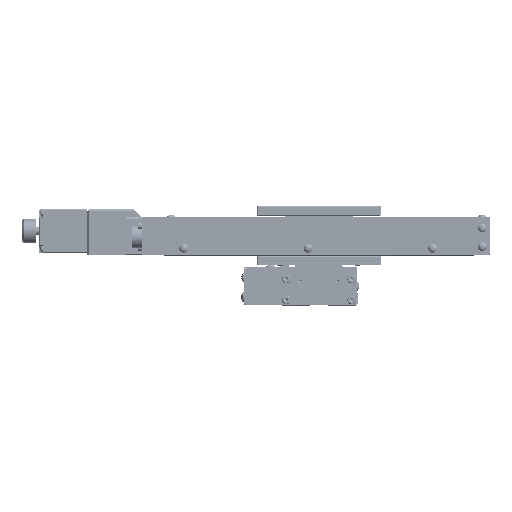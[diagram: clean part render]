
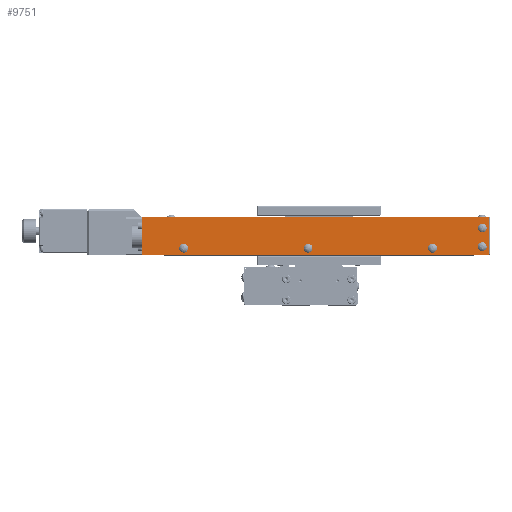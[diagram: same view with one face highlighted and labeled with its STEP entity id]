
A CAD part, front view. The second image highlights one B-rep face of the part: STEP entity #9751.
In plain terms, the highlighted planar face has unit normal (0, -1, 0).
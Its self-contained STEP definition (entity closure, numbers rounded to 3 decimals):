
#9751=ADVANCED_FACE('',(#58721,#58722,#58723,#58724,#58725,#58726),#58720,.T.);
#58720=PLANE('',#99414);
#58721=FACE_OUTER_BOUND('',#99415,.T.);
#58722=FACE_BOUND('',#99416,.T.);
#58723=FACE_BOUND('',#99417,.T.);
#58724=FACE_BOUND('',#99418,.T.);
#58725=FACE_BOUND('',#99419,.T.);
#58726=FACE_BOUND('',#99420,.T.);
#99411=CARTESIAN_POINT('',(-224.,-48.5,-1.95));
#99412=DIRECTION('',(0.,-1.,0.));
#99413=DIRECTION('',(1.,0.,0.));
#99414=AXIS2_PLACEMENT_3D('',#99411,#99412,#99413);
#99415=EDGE_LOOP('',(#125320,#125321,#125322,#125323,#125324,#125325));
#99416=EDGE_LOOP('',(#125326,#125327));
#99417=EDGE_LOOP('',(#125328,#125329));
#99418=EDGE_LOOP('',(#125330,#125331));
#99419=EDGE_LOOP('',(#125332,#125333));
#99420=EDGE_LOOP('',(#125334,#125335));
#125320=ORIENTED_EDGE('',*,*,#139735,.F.);
#125321=ORIENTED_EDGE('',*,*,#139733,.T.);
#125322=ORIENTED_EDGE('',*,*,#139736,.F.);
#125323=ORIENTED_EDGE('',*,*,#139737,.T.);
#125324=ORIENTED_EDGE('',*,*,#139738,.T.);
#125325=ORIENTED_EDGE('',*,*,#139739,.T.);
#125326=ORIENTED_EDGE('',*,*,#139740,.T.);
#125327=ORIENTED_EDGE('',*,*,#139741,.T.);
#125328=ORIENTED_EDGE('',*,*,#139742,.T.);
#125329=ORIENTED_EDGE('',*,*,#139743,.T.);
#125330=ORIENTED_EDGE('',*,*,#139744,.T.);
#125331=ORIENTED_EDGE('',*,*,#139745,.T.);
#125332=ORIENTED_EDGE('',*,*,#139746,.T.);
#125333=ORIENTED_EDGE('',*,*,#139747,.T.);
#125334=ORIENTED_EDGE('',*,*,#139748,.T.);
#125335=ORIENTED_EDGE('',*,*,#139749,.T.);
#139733=EDGE_CURVE('',#213259,#213252,#213260,.T.);
#139735=EDGE_CURVE('',#213259,#213272,#213273,.T.);
#139736=EDGE_CURVE('',#213279,#213252,#213280,.T.);
#139737=EDGE_CURVE('',#213279,#213286,#213287,.T.);
#139738=EDGE_CURVE('',#213286,#213293,#213294,.T.);
#139739=EDGE_CURVE('',#213293,#213272,#213300,.T.);
#139740=EDGE_CURVE('',#213306,#213307,#213308,.T.);
#139741=EDGE_CURVE('',#213307,#213306,#213314,.T.);
#139742=EDGE_CURVE('',#213320,#213321,#213322,.T.);
#139743=EDGE_CURVE('',#213321,#213320,#213328,.T.);
#139744=EDGE_CURVE('',#213334,#213335,#213336,.T.);
#139745=EDGE_CURVE('',#213335,#213334,#213342,.T.);
#139746=EDGE_CURVE('',#213348,#213349,#213350,.T.);
#139747=EDGE_CURVE('',#213349,#213348,#213356,.T.);
#139748=EDGE_CURVE('',#213362,#213363,#213364,.T.);
#139749=EDGE_CURVE('',#213363,#213362,#213370,.T.);
#213252=VERTEX_POINT('',#270644);
#213259=VERTEX_POINT('',#270648);
#213260=CIRCLE('',#270652,1.);
#213272=VERTEX_POINT('',#270656);
#213273=LINE('',#270657,#270658);
#213279=VERTEX_POINT('',#270660);
#213280=LINE('',#270661,#270662);
#213286=VERTEX_POINT('',#270664);
#213287=CIRCLE('',#270668,1.);
#213293=VERTEX_POINT('',#270669);
#213294=LINE('',#270670,#270671);
#213300=LINE('',#270673,#270674);
#213306=VERTEX_POINT('',#270676);
#213307=VERTEX_POINT('',#270677);
#213308=CIRCLE('',#270681,1.5);
#213314=CIRCLE('',#270685,1.5);
#213320=VERTEX_POINT('',#270686);
#213321=VERTEX_POINT('',#270687);
#213322=CIRCLE('',#270691,1.5);
#213328=CIRCLE('',#270695,1.5);
#213334=VERTEX_POINT('',#270696);
#213335=VERTEX_POINT('',#270697);
#213336=CIRCLE('',#270701,1.5);
#213342=CIRCLE('',#270705,1.5);
#213348=VERTEX_POINT('',#270706);
#213349=VERTEX_POINT('',#270707);
#213350=CIRCLE('',#270711,1.5);
#213356=CIRCLE('',#270715,1.5);
#213362=VERTEX_POINT('',#270716);
#213363=VERTEX_POINT('',#270717);
#213364=CIRCLE('',#270721,1.5);
#213370=CIRCLE('',#270725,1.5);
#270644=CARTESIAN_POINT('',(-213.,-48.5,0.5));
#270648=CARTESIAN_POINT('',(-214.,-48.5,1.5));
#270649=CARTESIAN_POINT('',(-213.,-48.5,1.5));
#270650=DIRECTION('',(0.,-1.,0.));
#270651=DIRECTION('',(1.,0.,0.));
#270652=AXIS2_PLACEMENT_3D('',#270649,#270650,#270651);
#270656=CARTESIAN_POINT('',(-214.,-48.5,25.));
#270657=CARTESIAN_POINT('',(-214.,-48.5,1.5));
#270658=VECTOR('',#270659,23.5);
#270659=DIRECTION('',(0.,0.,1.));
#270660=CARTESIAN_POINT('',(8.5,-48.5,0.5));
#270661=CARTESIAN_POINT('',(8.5,-48.5,0.5));
#270662=VECTOR('',#270663,221.5);
#270663=DIRECTION('',(-1.,0.,0.));
#270664=CARTESIAN_POINT('',(9.5,-48.5,1.5));
#270665=CARTESIAN_POINT('',(8.5,-48.5,1.5));
#270666=DIRECTION('',(0.,-1.,0.));
#270667=DIRECTION('',(0.,0.,1.));
#270668=AXIS2_PLACEMENT_3D('',#270665,#270666,#270667);
#270669=CARTESIAN_POINT('',(9.5,-48.5,25.));
#270670=CARTESIAN_POINT('',(9.5,-48.5,1.5));
#270671=VECTOR('',#270672,23.5);
#270672=DIRECTION('',(0.,0.,1.));
#270673=CARTESIAN_POINT('',(9.5,-48.5,25.));
#270674=VECTOR('',#270675,223.5);
#270675=DIRECTION('',(-1.,0.,0.));
#270676=CARTESIAN_POINT('',(5.,-48.5,7.5));
#270677=CARTESIAN_POINT('',(5.,-48.5,4.5));
#270678=CARTESIAN_POINT('',(5.,-48.5,6.));
#270679=DIRECTION('',(0.,1.,0.));
#270680=DIRECTION('',(0.,0.,1.));
#270681=AXIS2_PLACEMENT_3D('',#270678,#270679,#270680);
#270682=CARTESIAN_POINT('',(5.,-48.5,6.));
#270683=DIRECTION('',(0.,1.,0.));
#270684=DIRECTION('',(0.,0.,1.));
#270685=AXIS2_PLACEMENT_3D('',#270682,#270683,#270684);
#270686=CARTESIAN_POINT('',(-107.,-48.5,6.5));
#270687=CARTESIAN_POINT('',(-107.,-48.5,3.5));
#270688=CARTESIAN_POINT('',(-107.,-48.5,5.));
#270689=DIRECTION('',(0.,1.,0.));
#270690=DIRECTION('',(0.,0.,1.));
#270691=AXIS2_PLACEMENT_3D('',#270688,#270689,#270690);
#270692=CARTESIAN_POINT('',(-107.,-48.5,5.));
#270693=DIRECTION('',(0.,1.,0.));
#270694=DIRECTION('',(0.,0.,-1.));
#270695=AXIS2_PLACEMENT_3D('',#270692,#270693,#270694);
#270696=CARTESIAN_POINT('',(5.,-48.5,19.5));
#270697=CARTESIAN_POINT('',(5.,-48.5,16.5));
#270698=CARTESIAN_POINT('',(5.,-48.5,18.));
#270699=DIRECTION('',(0.,1.,0.));
#270700=DIRECTION('',(0.,0.,1.));
#270701=AXIS2_PLACEMENT_3D('',#270698,#270699,#270700);
#270702=CARTESIAN_POINT('',(5.,-48.5,18.));
#270703=DIRECTION('',(0.,1.,0.));
#270704=DIRECTION('',(0.,0.,-1.));
#270705=AXIS2_PLACEMENT_3D('',#270702,#270703,#270704);
#270706=CARTESIAN_POINT('',(-27.,-48.5,6.5));
#270707=CARTESIAN_POINT('',(-27.,-48.5,3.5));
#270708=CARTESIAN_POINT('',(-27.,-48.5,5.));
#270709=DIRECTION('',(0.,1.,0.));
#270710=DIRECTION('',(0.,0.,1.));
#270711=AXIS2_PLACEMENT_3D('',#270708,#270709,#270710);
#270712=CARTESIAN_POINT('',(-27.,-48.5,5.));
#270713=DIRECTION('',(0.,1.,0.));
#270714=DIRECTION('',(0.,0.,-1.));
#270715=AXIS2_PLACEMENT_3D('',#270712,#270713,#270714);
#270716=CARTESIAN_POINT('',(-187.,-48.5,6.5));
#270717=CARTESIAN_POINT('',(-187.,-48.5,3.5));
#270718=CARTESIAN_POINT('',(-187.,-48.5,5.));
#270719=DIRECTION('',(0.,1.,0.));
#270720=DIRECTION('',(0.,0.,1.));
#270721=AXIS2_PLACEMENT_3D('',#270718,#270719,#270720);
#270722=CARTESIAN_POINT('',(-187.,-48.5,5.));
#270723=DIRECTION('',(0.,1.,0.));
#270724=DIRECTION('',(0.,0.,-1.));
#270725=AXIS2_PLACEMENT_3D('',#270722,#270723,#270724);
